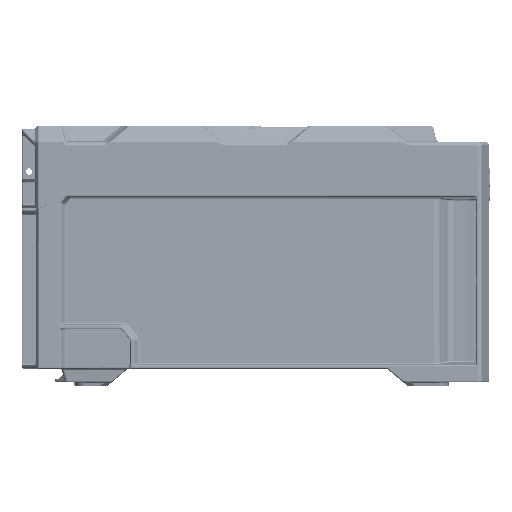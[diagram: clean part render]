
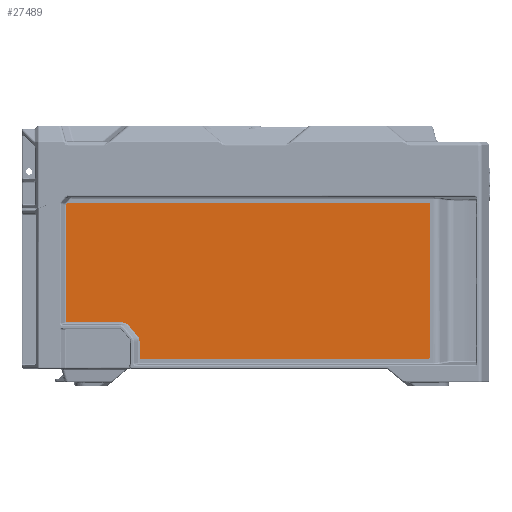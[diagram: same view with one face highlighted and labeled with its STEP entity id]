
A CAD part, left-side view. The second image highlights one B-rep face of the part: STEP entity #27489.
In plain terms, the highlighted planar face has unit normal (-1, 0, 0).
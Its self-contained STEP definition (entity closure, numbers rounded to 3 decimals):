
#16063=PLANE('',#228005);
#20246=ELLIPSE('',#227991,1.159,1.);
#20248=ELLIPSE('',#227995,5.098,4.5);
#20250=ELLIPSE('',#227998,6.931,6.);
#27489=ADVANCED_FACE('',(#45791),#16063,.T.);
#45791=FACE_OUTER_BOUND('',#59568,.T.);
#59568=EDGE_LOOP('',(#95702,#95703,#95704,#95705,#95706,#95707,#95708,#95709,
#95710,#95711,#95712,#95713,#95714));
#72216=CIRCLE('',#228003,0.5);
#72217=CIRCLE('',#228004,0.5);
#95702=ORIENTED_EDGE('',*,*,#173290,.T.);
#95703=ORIENTED_EDGE('',*,*,#173292,.T.);
#95704=ORIENTED_EDGE('',*,*,#173269,.T.);
#95705=ORIENTED_EDGE('',*,*,#173272,.F.);
#95706=ORIENTED_EDGE('',*,*,#173274,.F.);
#95707=ORIENTED_EDGE('',*,*,#173276,.F.);
#95708=ORIENTED_EDGE('',*,*,#173278,.F.);
#95709=ORIENTED_EDGE('',*,*,#173280,.F.);
#95710=ORIENTED_EDGE('',*,*,#173282,.F.);
#95711=ORIENTED_EDGE('',*,*,#173284,.F.);
#95712=ORIENTED_EDGE('',*,*,#173286,.F.);
#95713=ORIENTED_EDGE('',*,*,#173287,.T.);
#95714=ORIENTED_EDGE('',*,*,#173293,.T.);
#149729=VERTEX_POINT('',#354387);
#149730=VERTEX_POINT('',#354389);
#149731=VERTEX_POINT('',#354393);
#149732=VERTEX_POINT('',#354397);
#149733=VERTEX_POINT('',#354401);
#149734=VERTEX_POINT('',#354405);
#149735=VERTEX_POINT('',#354409);
#149736=VERTEX_POINT('',#354413);
#149737=VERTEX_POINT('',#354417);
#149738=VERTEX_POINT('',#354421);
#149739=VERTEX_POINT('',#354425);
#149740=VERTEX_POINT('',#354429);
#149741=VERTEX_POINT('',#354431);
#173269=EDGE_CURVE('',#149730,#149729,#200790,.T.);
#173272=EDGE_CURVE('',#149731,#149729,#200793,.T.);
#173274=EDGE_CURVE('',#149732,#149731,#20246,.T.);
#173276=EDGE_CURVE('',#149733,#149732,#200796,.T.);
#173278=EDGE_CURVE('',#149734,#149733,#200798,.T.);
#173280=EDGE_CURVE('',#149735,#149734,#20248,.T.);
#173282=EDGE_CURVE('',#149736,#149735,#200801,.T.);
#173284=EDGE_CURVE('',#149737,#149736,#20250,.T.);
#173286=EDGE_CURVE('',#149738,#149737,#200804,.T.);
#173287=EDGE_CURVE('',#149738,#149739,#200805,.T.);
#173290=EDGE_CURVE('',#149741,#149740,#200808,.T.);
#173292=EDGE_CURVE('',#149740,#149730,#72216,.T.);
#173293=EDGE_CURVE('',#149739,#149741,#72217,.T.);
#200790=LINE('',#354388,#212888);
#200793=LINE('',#354394,#212891);
#200796=LINE('',#354402,#212895);
#200798=LINE('',#354406,#212897);
#200801=LINE('',#354414,#212901);
#200804=LINE('',#354422,#212905);
#200805=LINE('',#354424,#212906);
#200808=LINE('',#354430,#212909);
#212888=VECTOR('',#259784,1.);
#212891=VECTOR('',#259789,1.);
#212895=VECTOR('',#259799,1.);
#212897=VECTOR('',#259803,1.);
#212901=VECTOR('',#259813,1.);
#212905=VECTOR('',#259823,1.);
#212906=VECTOR('',#259826,1.);
#212909=VECTOR('',#259831,1.);
#227991=AXIS2_PLACEMENT_3D('',#354398,#259793,#259794);
#227995=AXIS2_PLACEMENT_3D('',#354410,#259807,#259808);
#227998=AXIS2_PLACEMENT_3D('',#354418,#259817,#259818);
#228003=AXIS2_PLACEMENT_3D('',#354434,#259835,#259836);
#228004=AXIS2_PLACEMENT_3D('',#354435,#259837,#259838);
#228005=AXIS2_PLACEMENT_3D('',#354436,#259839,#259840);
#259784=DIRECTION('',(0.,1.,0.));
#259789=DIRECTION('',(0.,-0.64,0.768));
#259793=DIRECTION('',(1.,0.,0.));
#259794=DIRECTION('',(0.,0.986,0.165));
#259799=DIRECTION('',(0.,0.,1.));
#259803=DIRECTION('',(0.,1.,0.));
#259807=DIRECTION('',(-1.,0.,0.));
#259808=DIRECTION('',(0.,-0.983,0.181));
#259813=DIRECTION('',(0.,0.643,0.766));
#259817=DIRECTION('',(-1.,0.,0.));
#259818=DIRECTION('',(0.,0.998,-0.056));
#259823=DIRECTION('',(0.,0.,1.));
#259826=DIRECTION('',(0.,-1.,0.));
#259831=DIRECTION('',(0.,0.,1.));
#259835=DIRECTION('',(-1.,0.,0.));
#259836=DIRECTION('',(0.,0.,-1.));
#259837=DIRECTION('',(-1.,0.,0.));
#259838=DIRECTION('',(0.,0.,-1.));
#259839=DIRECTION('',(-1.,0.,0.));
#259840=DIRECTION('',(0.,0.,-1.));
#354387=CARTESIAN_POINT('',(-242.4,-28.979,-13.75));
#354388=CARTESIAN_POINT('',(-242.4,0.,-13.75));
#354389=CARTESIAN_POINT('',(-242.4,-257.593,-13.75));
#354393=CARTESIAN_POINT('',(-242.4,-28.301,-14.563));
#354394=CARTESIAN_POINT('',(-242.4,-23.857,-19.893));
#354397=CARTESIAN_POINT('',(-242.4,-28.093,-15.13));
#354398=CARTESIAN_POINT('',(-242.4,-29.247,-15.178));
#354401=CARTESIAN_POINT('',(-242.4,-28.093,-89.561));
#354402=CARTESIAN_POINT('',(-242.4,-28.093,0.));
#354405=CARTESIAN_POINT('',(-242.4,-63.491,-89.561));
#354406=CARTESIAN_POINT('',(-242.4,0.,-89.561));
#354409=CARTESIAN_POINT('',(-242.4,-67.383,-91.274));
#354410=CARTESIAN_POINT('',(-242.4,-63.265,-94.082));
#354413=CARTESIAN_POINT('',(-242.4,-73.128,-98.121));
#354414=CARTESIAN_POINT('',(-242.4,-67.481,-91.391));
#354417=CARTESIAN_POINT('',(-242.4,-74.43,-101.605));
#354418=CARTESIAN_POINT('',(-242.4,-67.501,-101.703));
#354421=CARTESIAN_POINT('',(-242.4,-74.43,-112.75));
#354422=CARTESIAN_POINT('',(-242.4,-74.43,0.));
#354424=CARTESIAN_POINT('',(-242.4,0.,-112.75));
#354425=CARTESIAN_POINT('',(-242.4,-257.593,-112.75));
#354429=CARTESIAN_POINT('',(-242.4,-258.093,-14.25));
#354430=CARTESIAN_POINT('',(-242.4,-258.093,0.));
#354431=CARTESIAN_POINT('',(-242.4,-258.093,-112.25));
#354434=CARTESIAN_POINT('',(-242.4,-257.593,-14.25));
#354435=CARTESIAN_POINT('',(-242.4,-257.593,-112.25));
#354436=CARTESIAN_POINT('',(-242.4,0.,0.));
